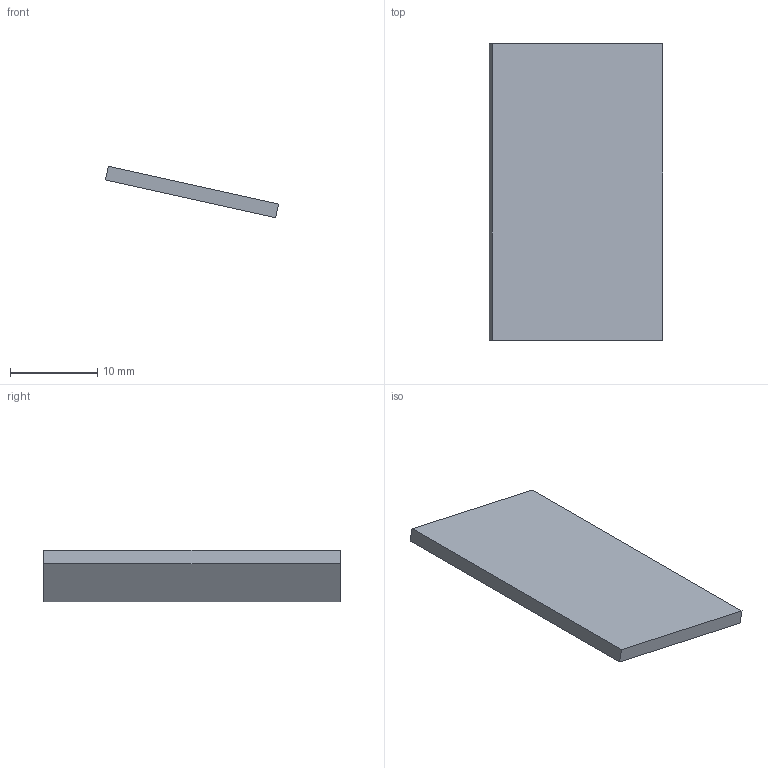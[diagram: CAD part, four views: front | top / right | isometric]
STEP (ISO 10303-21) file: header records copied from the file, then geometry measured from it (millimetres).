
FILE_DESCRIPTION(('Open CASCADE Model'),'2;1');
FILE_NAME('Open CASCADE Shape Model','2026-10-16T05:25:08',('Author'),( 'Open CASCADE'),'Open CASCADE STEP processor 7.9','Open CASCADE 7.9' ,'Unknown');
FILE_SCHEMA(('AUTOMOTIVE_DESIGN { 1 0 10303 214 1 1 1 1 }'));
Length unit declared in the file: millimetre
Products named in the file (1): Open CASCADE STEP translator 7.9 5
Bounding box: 19.87 x 34 x 5.89 mm (x, y, z)
Volume: 1088 mm3; surface area: 1532.8 mm2
Topology: 1 solids, 1 shells, 6 faces, 12 edges, 8 vertices
Faces by surface type: plane 6
Entity records: 322 total; most frequent: CARTESIAN_POINT 51, DIRECTION 50, LINE 36, VECTOR 36, ORIENTED_EDGE 24, PCURVE 24, DEFINITIONAL_REPRESENTATION 24, EDGE_CURVE 12
